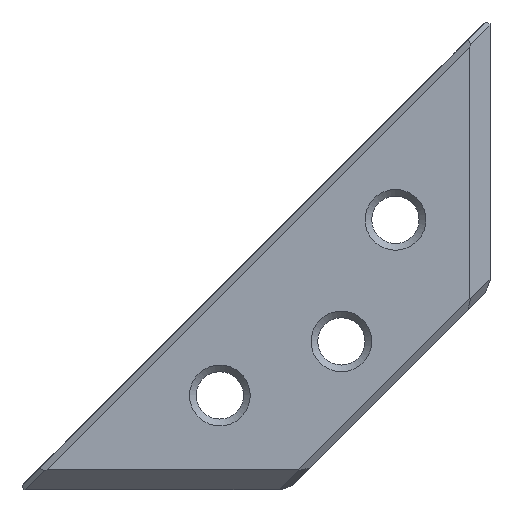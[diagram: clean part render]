
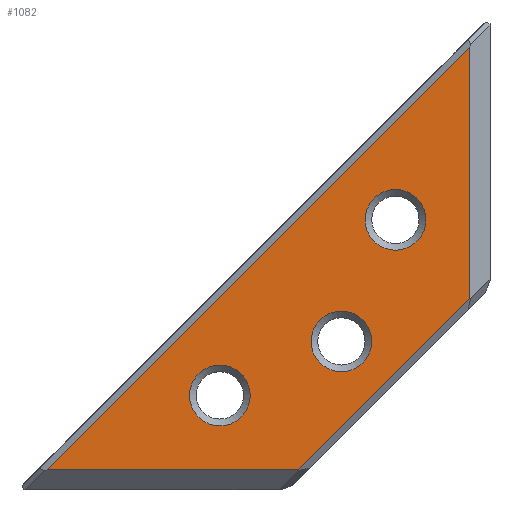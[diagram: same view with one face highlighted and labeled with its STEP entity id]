
A CAD part, left-side view. The second image highlights one B-rep face of the part: STEP entity #1082.
In plain terms, the highlighted planar face has unit normal (-1, 0, 0).
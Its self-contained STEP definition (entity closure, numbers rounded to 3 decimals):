
#44=CIRCLE('',#1168,2.25);
#45=CIRCLE('',#1169,2.25);
#46=CIRCLE('',#1170,2.25);
#118=ORIENTED_EDGE('',*,*,#410,.T.);
#119=ORIENTED_EDGE('',*,*,#411,.T.);
#120=ORIENTED_EDGE('',*,*,#412,.T.);
#121=ORIENTED_EDGE('',*,*,#413,.T.);
#122=ORIENTED_EDGE('',*,*,#414,.T.);
#123=ORIENTED_EDGE('',*,*,#415,.T.);
#124=ORIENTED_EDGE('',*,*,#416,.T.);
#410=EDGE_CURVE('',#556,#556,#44,.F.);
#411=EDGE_CURVE('',#557,#557,#45,.F.);
#412=EDGE_CURVE('',#558,#558,#46,.F.);
#413=EDGE_CURVE('',#559,#560,#651,.T.);
#414=EDGE_CURVE('',#560,#561,#652,.T.);
#415=EDGE_CURVE('',#561,#562,#653,.T.);
#416=EDGE_CURVE('',#562,#559,#654,.T.);
#556=VERTEX_POINT('',#1675);
#557=VERTEX_POINT('',#1677);
#558=VERTEX_POINT('',#1679);
#559=VERTEX_POINT('',#1681);
#560=VERTEX_POINT('',#1682);
#561=VERTEX_POINT('',#1684);
#562=VERTEX_POINT('',#1686);
#651=LINE('',#1680,#767);
#652=LINE('',#1683,#768);
#653=LINE('',#1685,#769);
#654=LINE('',#1687,#770);
#767=VECTOR('',#1331,1000.);
#768=VECTOR('',#1332,1000.);
#769=VECTOR('',#1333,1000.);
#770=VECTOR('',#1334,1000.);
#847=EDGE_LOOP('',(#118));
#848=EDGE_LOOP('',(#119));
#849=EDGE_LOOP('',(#120));
#850=EDGE_LOOP('',(#121,#122,#123,#124));
#945=FACE_BOUND('',#847,.T.);
#946=FACE_BOUND('',#848,.T.);
#947=FACE_BOUND('',#849,.T.);
#948=FACE_BOUND('',#850,.T.);
#1038=PLANE('',#1167);
#1082=ADVANCED_FACE('',(#945,#946,#947,#948),#1038,.T.);
#1167=AXIS2_PLACEMENT_3D('',#1673,#1323,#1324);
#1168=AXIS2_PLACEMENT_3D('',#1674,#1325,#1326);
#1169=AXIS2_PLACEMENT_3D('',#1676,#1327,#1328);
#1170=AXIS2_PLACEMENT_3D('',#1678,#1329,#1330);
#1323=DIRECTION('',(-1.,0.,0.));
#1324=DIRECTION('',(0.,-1.,0.));
#1325=DIRECTION('',(-1.,0.,0.));
#1326=DIRECTION('',(0.,-1.,0.));
#1327=DIRECTION('',(-1.,0.,0.));
#1328=DIRECTION('',(0.,-1.,0.));
#1329=DIRECTION('',(-1.,0.,0.));
#1330=DIRECTION('',(0.,-1.,0.));
#1331=DIRECTION('',(0.,-1.,0.));
#1332=DIRECTION('',(0.,-0.707,0.707));
#1333=DIRECTION('',(0.,0.,1.));
#1334=DIRECTION('',(0.,0.707,-0.707));
#1673=CARTESIAN_POINT('',(-1.5,0.,0.));
#1674=CARTESIAN_POINT('',(-1.5,7.,20.));
#1675=CARTESIAN_POINT('',(-1.5,4.75,20.));
#1676=CARTESIAN_POINT('',(-1.5,11.,11.));
#1677=CARTESIAN_POINT('',(-1.5,8.75,11.));
#1678=CARTESIAN_POINT('',(-1.5,20.,7.));
#1679=CARTESIAN_POINT('',(-1.5,17.75,7.));
#1680=CARTESIAN_POINT('',(-1.5,0.,1.5));
#1681=CARTESIAN_POINT('',(-1.5,32.793,1.5));
#1682=CARTESIAN_POINT('',(-1.5,14.207,1.5));
#1683=CARTESIAN_POINT('',(-1.5,7.854,7.854));
#1684=CARTESIAN_POINT('',(-1.5,1.5,14.207));
#1685=CARTESIAN_POINT('',(-1.5,1.5,0.));
#1686=CARTESIAN_POINT('',(-1.5,1.5,32.793));
#1687=CARTESIAN_POINT('',(-1.5,17.146,17.146));
